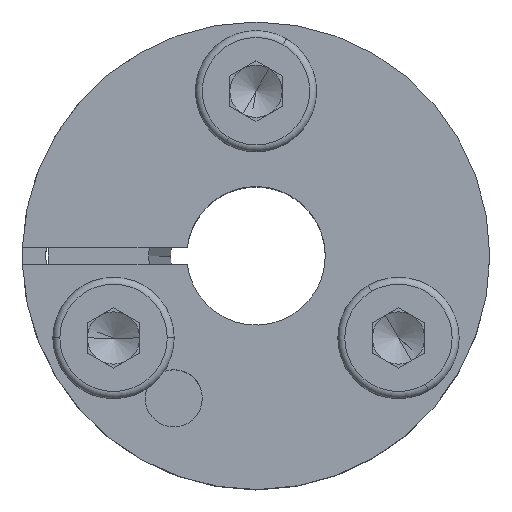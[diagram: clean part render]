
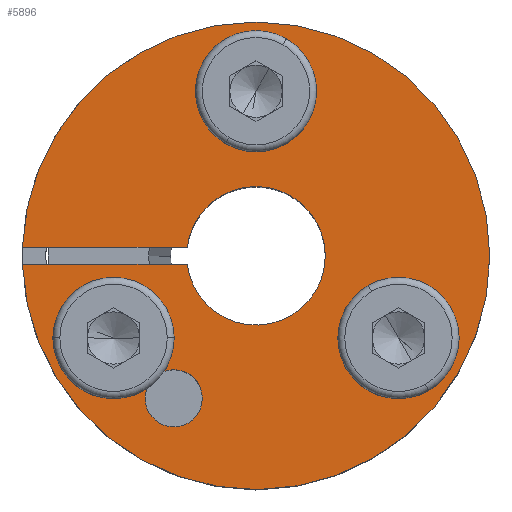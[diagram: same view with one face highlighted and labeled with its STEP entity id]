
A CAD part, top view. The second image highlights one B-rep face of the part: STEP entity #5896.
In plain terms, the highlighted planar face has unit normal (0, 0, 1).
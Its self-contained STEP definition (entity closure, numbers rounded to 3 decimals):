
#9 = AXIS2_PLACEMENT_3D ( 'NONE', #3068, #153, #3556 ) ;
#32 = CIRCLE ( 'NONE', #3409, 1.65 ) ;
#102 = AXIS2_PLACEMENT_3D ( 'NONE', #765, #4173, #1244 ) ;
#120 = CIRCLE ( 'NONE', #1204, 2.5 ) ;
#149 = CARTESIAN_POINT ( 'NONE',  ( -1.25, 11.665, 6.913 ) ) ;
#152 = DIRECTION ( 'NONE',  ( 0., 0., 1. ) ) ;
#153 = DIRECTION ( 'NONE',  ( 0., 0., 1. ) ) ;
#221 = DIRECTION ( 'NONE',  ( 0., 0., 1. ) ) ;
#236 = VERTEX_POINT ( 'NONE', #3500 ) ;
#252 = VERTEX_POINT ( 'NONE', #3271 ) ;
#318 = DIRECTION ( 'NONE',  ( -0.5, 0.866, 0. ) ) ;
#346 = EDGE_CURVE ( 'NONE', #6230, #480, #905, .T. ) ;
#354 = CIRCLE ( 'NONE', #4194, 2.5 ) ;
#410 = CARTESIAN_POINT ( 'NONE',  ( -6.75, 11.691, 6.913 ) ) ;
#443 = CARTESIAN_POINT ( 'NONE',  ( -8.227, -4.75, 6.913 ) ) ;
#480 = VERTEX_POINT ( 'NONE', #2049 ) ;
#483 = DIRECTION ( 'NONE',  ( -0.5, 0.866, 0. ) ) ;
#498 = EDGE_CURVE ( 'NONE', #4083, #4440, #514, .T. ) ;
#514 = CIRCLE ( 'NONE', #2570, 2.5 ) ;
#534 = EDGE_LOOP ( 'NONE', ( #1688, #4160 ) ) ;
#599 = CIRCLE ( 'NONE', #5083, 2.5 ) ;
#607 = DIRECTION ( 'NONE',  ( 0., 0., 1. ) ) ;
#628 = CARTESIAN_POINT ( 'NONE',  ( -9.477, -2.585, 6.913 ) ) ;
#696 = CARTESIAN_POINT ( 'NONE',  ( 1.25, 7.335, 6.913 ) ) ;
#728 = PLANE ( 'NONE',  #1527 ) ;
#733 = FACE_BOUND ( 'NONE', #534, .T. ) ;
#750 = CARTESIAN_POINT ( 'NONE',  ( 0., 0., 6.913 ) ) ;
#765 = CARTESIAN_POINT ( 'NONE',  ( 0., 0., 6.913 ) ) ;
#865 = ORIENTED_EDGE ( 'NONE', *, *, #4623, .F. ) ;
#905 = CIRCLE ( 'NONE', #2482, 4. ) ;
#935 = DIRECTION ( 'NONE',  ( -0.5, 0.866, 0. ) ) ;
#956 = CARTESIAN_POINT ( 'NONE',  ( -4.75, -8.227, 6.913 ) ) ;
#961 = CARTESIAN_POINT ( 'NONE',  ( -22., 0.5, 6.913 ) ) ;
#1009 = VERTEX_POINT ( 'NONE', #1533 ) ;
#1130 = ORIENTED_EDGE ( 'NONE', *, *, #2009, .T. ) ;
#1204 = AXIS2_PLACEMENT_3D ( 'NONE', #2704, #6169, #3201 ) ;
#1205 = CIRCLE ( 'NONE', #4956, 1.65 ) ;
#1229 = DIRECTION ( 'NONE',  ( -0.5, 0.866, 0. ) ) ;
#1244 = DIRECTION ( 'NONE',  ( -0.5, 0.866, 0. ) ) ;
#1406 = CIRCLE ( 'NONE', #2820, 4. ) ;
#1413 = LINE ( 'NONE', #961, #6346 ) ;
#1436 = DIRECTION ( 'NONE',  ( -0.5, 0.866, 0. ) ) ;
#1450 = CARTESIAN_POINT ( 'NONE',  ( 2., -3.464, 6.913 ) ) ;
#1471 = EDGE_CURVE ( 'NONE', #2759, #1009, #4862, .T. ) ;
#1496 = DIRECTION ( 'NONE',  ( -0.5, 0.866, 0. ) ) ;
#1512 = DIRECTION ( 'NONE',  ( 0., 0., 1. ) ) ;
#1527 = AXIS2_PLACEMENT_3D ( 'NONE', #750, #4165, #1229 ) ;
#1533 = CARTESIAN_POINT ( 'NONE',  ( -3.969, -0.5, 6.913 ) ) ;
#1603 = CARTESIAN_POINT ( 'NONE',  ( -6.977, -6.915, 6.913 ) ) ;
#1686 = CIRCLE ( 'NONE', #5215, 13.5 ) ;
#1688 = ORIENTED_EDGE ( 'NONE', *, *, #498, .F. ) ;
#1695 = VERTEX_POINT ( 'NONE', #4893 ) ;
#1710 = ORIENTED_EDGE ( 'NONE', *, *, #5773, .T. ) ;
#1809 = CARTESIAN_POINT ( 'NONE',  ( -8.227, -4.75, 6.913 ) ) ;
#1842 = EDGE_CURVE ( 'NONE', #3285, #6107, #4443, .T. ) ;
#1919 = CARTESIAN_POINT ( 'NONE',  ( 0., 9.5, 6.913 ) ) ;
#1930 = DIRECTION ( 'NONE',  ( -1., 0., 0. ) ) ;
#1986 = CARTESIAN_POINT ( 'NONE',  ( 6.75, -11.691, 6.913 ) ) ;
#2009 = EDGE_CURVE ( 'NONE', #2890, #6079, #1686, .T. ) ;
#2020 = FACE_BOUND ( 'NONE', #6033, .T. ) ;
#2049 = CARTESIAN_POINT ( 'NONE',  ( -2., 3.464, 6.913 ) ) ;
#2299 = DIRECTION ( 'NONE',  ( -0.5, 0.866, 0. ) ) ;
#2307 = ORIENTED_EDGE ( 'NONE', *, *, #5898, .F. ) ;
#2416 = DIRECTION ( 'NONE',  ( 1., 0., 0. ) ) ;
#2458 = EDGE_CURVE ( 'NONE', #1009, #6230, #3495, .T. ) ;
#2482 = AXIS2_PLACEMENT_3D ( 'NONE', #3462, #1512, #1496 ) ;
#2497 = CARTESIAN_POINT ( 'NONE',  ( -13.491, -0.5, 6.913 ) ) ;
#2570 = AXIS2_PLACEMENT_3D ( 'NONE', #2588, #6054, #3081 ) ;
#2588 = CARTESIAN_POINT ( 'NONE',  ( 0., 9.5, 6.913 ) ) ;
#2704 = CARTESIAN_POINT ( 'NONE',  ( 8.227, -4.75, 6.913 ) ) ;
#2759 = VERTEX_POINT ( 'NONE', #2497 ) ;
#2793 = CARTESIAN_POINT ( 'NONE',  ( 9.477, -6.915, 6.913 ) ) ;
#2820 = AXIS2_PLACEMENT_3D ( 'NONE', #3146, #221, #3631 ) ;
#2890 = VERTEX_POINT ( 'NONE', #1986 ) ;
#3014 = FACE_BOUND ( 'NONE', #5837, .T. ) ;
#3046 = DIRECTION ( 'NONE',  ( 1., 0., 0. ) ) ;
#3066 = CARTESIAN_POINT ( 'NONE',  ( 8.227, -4.75, 6.913 ) ) ;
#3068 = CARTESIAN_POINT ( 'NONE',  ( 0., 0., 6.913 ) ) ;
#3081 = DIRECTION ( 'NONE',  ( 1., 0., 0. ) ) ;
#3083 = EDGE_CURVE ( 'NONE', #480, #5031, #1406, .T. ) ;
#3131 = ORIENTED_EDGE ( 'NONE', *, *, #6300, .T. ) ;
#3146 = CARTESIAN_POINT ( 'NONE',  ( 0., 0., 6.913 ) ) ;
#3177 = FACE_BOUND ( 'NONE', #5482, .T. ) ;
#3201 = DIRECTION ( 'NONE',  ( -0.5, -0.866, 0. ) ) ;
#3239 = DIRECTION ( 'NONE',  ( 0., 0., 1. ) ) ;
#3271 = CARTESIAN_POINT ( 'NONE',  ( -5.575, -6.798, 6.913 ) ) ;
#3285 = VERTEX_POINT ( 'NONE', #2793 ) ;
#3407 = DIRECTION ( 'NONE',  ( 0., 0., 1. ) ) ;
#3409 = AXIS2_PLACEMENT_3D ( 'NONE', #6365, #3407, #483 ) ;
#3441 = EDGE_CURVE ( 'NONE', #5031, #1695, #1413, .T. ) ;
#3462 = CARTESIAN_POINT ( 'NONE',  ( 0., 0., 6.913 ) ) ;
#3495 = CIRCLE ( 'NONE', #102, 4. ) ;
#3497 = VERTEX_POINT ( 'NONE', #1603 ) ;
#3500 = CARTESIAN_POINT ( 'NONE',  ( -3.925, -9.656, 6.913 ) ) ;
#3513 = ORIENTED_EDGE ( 'NONE', *, *, #3083, .F. ) ;
#3521 = CARTESIAN_POINT ( 'NONE',  ( 0., 0., 6.913 ) ) ;
#3532 = VECTOR ( 'NONE', #3046, 1000. ) ;
#3553 = DIRECTION ( 'NONE',  ( -0.5, -0.866, 0. ) ) ;
#3556 = DIRECTION ( 'NONE',  ( -0.5, 0.866, 0. ) ) ;
#3631 = DIRECTION ( 'NONE',  ( -0.5, 0.866, 0. ) ) ;
#3849 = DIRECTION ( 'NONE',  ( 0., 0., 1. ) ) ;
#3890 = EDGE_CURVE ( 'NONE', #236, #252, #32, .T. ) ;
#3970 = ORIENTED_EDGE ( 'NONE', *, *, #4783, .F. ) ;
#4016 = DIRECTION ( 'NONE',  ( -0.5, 0.866, 0. ) ) ;
#4083 = VERTEX_POINT ( 'NONE', #149 ) ;
#4160 = ORIENTED_EDGE ( 'NONE', *, *, #6158, .F. ) ;
#4165 = DIRECTION ( 'NONE',  ( 0., 0., 1. ) ) ;
#4173 = DIRECTION ( 'NONE',  ( 0., 0., 1. ) ) ;
#4194 = AXIS2_PLACEMENT_3D ( 'NONE', #443, #3849, #935 ) ;
#4329 = CARTESIAN_POINT ( 'NONE',  ( 6.977, -2.585, 6.913 ) ) ;
#4370 = DIRECTION ( 'NONE',  ( 0., 0., 1. ) ) ;
#4440 = VERTEX_POINT ( 'NONE', #696 ) ;
#4443 = CIRCLE ( 'NONE', #5085, 2.5 ) ;
#4550 = ORIENTED_EDGE ( 'NONE', *, *, #5533, .F. ) ;
#4623 = EDGE_CURVE ( 'NONE', #3497, #6321, #599, .T. ) ;
#4660 = FACE_OUTER_BOUND ( 'NONE', #5261, .T. ) ;
#4730 = ORIENTED_EDGE ( 'NONE', *, *, #3890, .F. ) ;
#4783 = EDGE_CURVE ( 'NONE', #252, #236, #1205, .T. ) ;
#4862 = LINE ( 'NONE', #5024, #3532 ) ;
#4893 = CARTESIAN_POINT ( 'NONE',  ( -13.491, 0.5, 6.913 ) ) ;
#4956 = AXIS2_PLACEMENT_3D ( 'NONE', #956, #4370, #1436 ) ;
#5024 = CARTESIAN_POINT ( 'NONE',  ( -2., -0.5, 6.913 ) ) ;
#5031 = VERTEX_POINT ( 'NONE', #5658 ) ;
#5083 = AXIS2_PLACEMENT_3D ( 'NONE', #1809, #5274, #2299 ) ;
#5085 = AXIS2_PLACEMENT_3D ( 'NONE', #3066, #152, #3553 ) ;
#5188 = CIRCLE ( 'NONE', #5824, 13.5 ) ;
#5215 = AXIS2_PLACEMENT_3D ( 'NONE', #6207, #3239, #318 ) ;
#5261 = EDGE_LOOP ( 'NONE', ( #6250, #3513, #6159, #6011, #5714, #3131, #1130, #1710 ) ) ;
#5274 = DIRECTION ( 'NONE',  ( 0., 0., 1. ) ) ;
#5393 = DIRECTION ( 'NONE',  ( 0., 0., 1. ) ) ;
#5482 = EDGE_LOOP ( 'NONE', ( #4550, #865 ) ) ;
#5533 = EDGE_CURVE ( 'NONE', #6321, #3497, #354, .T. ) ;
#5597 = CIRCLE ( 'NONE', #9, 13.5 ) ;
#5658 = CARTESIAN_POINT ( 'NONE',  ( -3.969, 0.5, 6.913 ) ) ;
#5714 = ORIENTED_EDGE ( 'NONE', *, *, #1471, .F. ) ;
#5773 = EDGE_CURVE ( 'NONE', #6079, #1695, #5597, .T. ) ;
#5824 = AXIS2_PLACEMENT_3D ( 'NONE', #3521, #607, #4016 ) ;
#5837 = EDGE_LOOP ( 'NONE', ( #3970, #4730 ) ) ;
#5896 = ADVANCED_FACE ( 'NONE', ( #3014, #4660, #733, #2020, #3177 ), #728, .T. ) ;
#5898 = EDGE_CURVE ( 'NONE', #6107, #3285, #120, .T. ) ;
#6011 = ORIENTED_EDGE ( 'NONE', *, *, #2458, .F. ) ;
#6033 = EDGE_LOOP ( 'NONE', ( #2307, #6299 ) ) ;
#6054 = DIRECTION ( 'NONE',  ( 0., 0., 1. ) ) ;
#6079 = VERTEX_POINT ( 'NONE', #410 ) ;
#6107 = VERTEX_POINT ( 'NONE', #4329 ) ;
#6158 = EDGE_CURVE ( 'NONE', #4440, #4083, #6185, .T. ) ;
#6159 = ORIENTED_EDGE ( 'NONE', *, *, #346, .F. ) ;
#6169 = DIRECTION ( 'NONE',  ( 0., 0., 1. ) ) ;
#6185 = CIRCLE ( 'NONE', #6355, 2.5 ) ;
#6207 = CARTESIAN_POINT ( 'NONE',  ( 0., 0., 6.913 ) ) ;
#6230 = VERTEX_POINT ( 'NONE', #1450 ) ;
#6250 = ORIENTED_EDGE ( 'NONE', *, *, #3441, .F. ) ;
#6299 = ORIENTED_EDGE ( 'NONE', *, *, #1842, .F. ) ;
#6300 = EDGE_CURVE ( 'NONE', #2759, #2890, #5188, .T. ) ;
#6321 = VERTEX_POINT ( 'NONE', #628 ) ;
#6346 = VECTOR ( 'NONE', #1930, 1000. ) ;
#6355 = AXIS2_PLACEMENT_3D ( 'NONE', #1919, #5393, #2416 ) ;
#6365 = CARTESIAN_POINT ( 'NONE',  ( -4.75, -8.227, 6.913 ) ) ;
